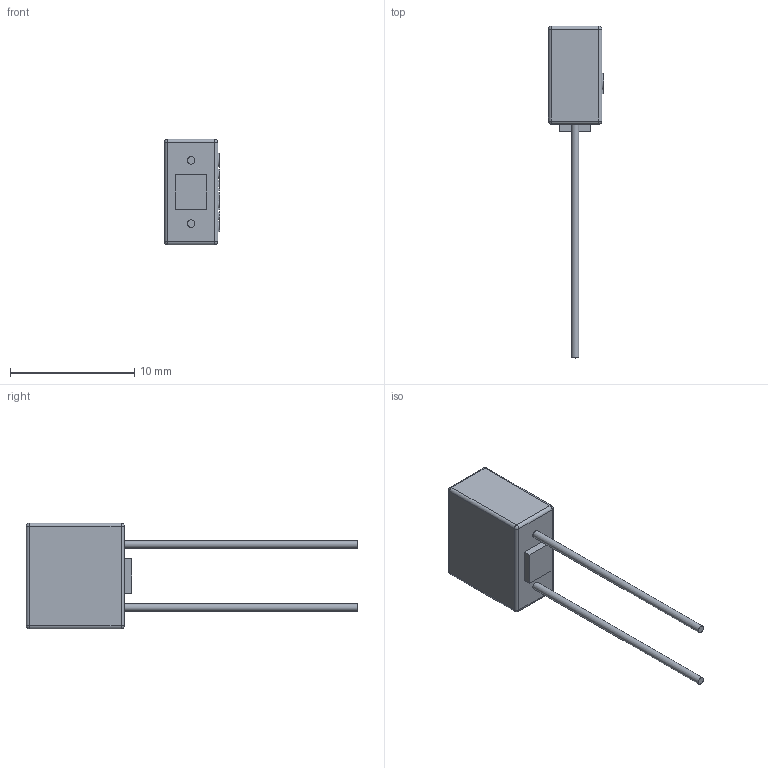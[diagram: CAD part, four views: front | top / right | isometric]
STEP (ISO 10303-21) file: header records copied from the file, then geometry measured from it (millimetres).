
FILE_DESCRIPTION(/* description */ (''),/* implementation_level */ '2;1');
FILE_NAME(/* name */ 'C:\Users\Hani\Desktop\work\FMR-R\FMR-R.stp',/* time_stamp */ '2022-01-30T11:27:51-08:00',/* author */ ('Hani'),/* organization */ (''),/* preprocessor_version */ 'ST-DEVELOPER v17',/* originating_system */ 'Autodesk Inventor 2019',/* authorisation */ '');
FILE_SCHEMA (('AUTOMOTIVE_DESIGN { 1 0 10303 214 3 1 1 }'));
Length unit declared in the file: inch
Products named in the file (1): FMR
Bounding box: 4.43 x 26.7 x 8.5 mm (x, y, z)
Volume: 302.9 mm3; surface area: 348.5 mm2
Topology: 1 solids, 1 shells, 171 faces, 438 edges, 284 vertices
Faces by surface type: plane 82, bspline 67, cylinder 14, sphere 8
Full cylindrical faces by diameter (mm): 0.6 x2
Entity records: 5770 total; most frequent: CARTESIAN_POINT 1967, ORIENTED_EDGE 876, DIRECTION 542, EDGE_CURVE 438, VERTEX_POINT 284, LINE 276, VECTOR 276, EDGE_LOOP 186
